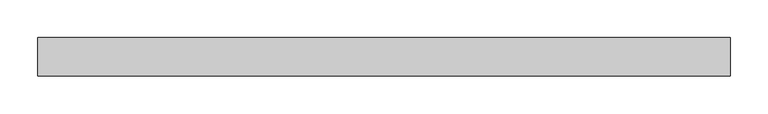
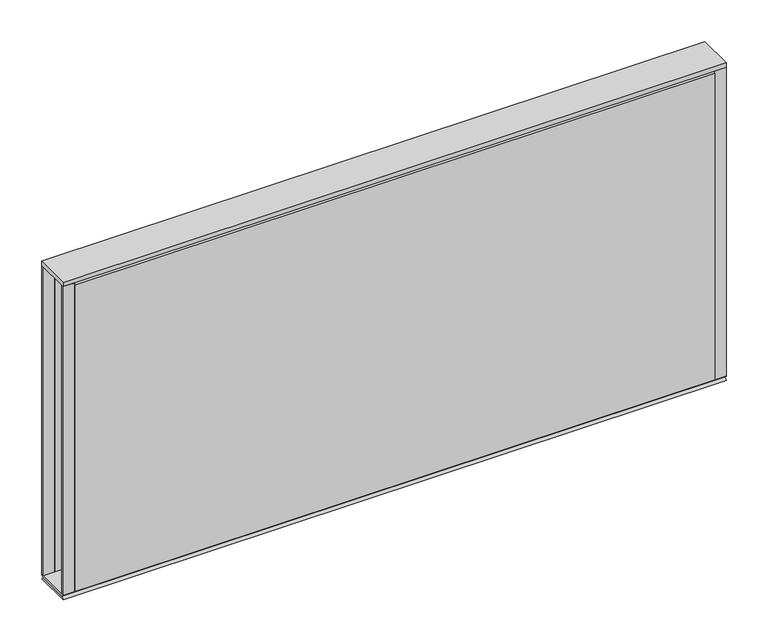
"""IFC4 building model written with IfcOpenShell, lengths in millimetres: furniture geometry, Steelcase - Kick Solutions - Panel - Stacker - Tackable Acoustical : 18H x 36W."""

from ifc_helpers import new_model, si_unit, frame, origin, place, context, project, spatial, polyline, outline, extrude, source, transform, mapped, element, save


def furniture_2aa7dff5(model_context):
    return source(origin(), model_context, "Body", "SweptSolid", [
        extrude(outline(polyline([(-50.7995075, 1073.2669139), (-0.000494, 1073.2669139), (-3.1752531, 1070.0921549), (-47.6247484, 1070.0921549), (-50.7995075, 1073.2669139)])), frame((0.0, 0.0, 0.0), z_axis=(1.0, 0.0, 0.0), x_axis=(0.0, 1.0, 0.0)), (0.0, 0.0, 1.0), 914.4),
        extrude(outline(polyline([(0.0, 1073.2669139), (-3.1750015, 1073.2669139), (-3.1750015, 1524.1169018), (0.0, 1521.0357466), (0.0, 1073.2669139)])), frame((15.8749996, 0.0, 0.0), z_axis=(1.0, 0.0, 0.0), x_axis=(0.0, 1.0, 0.0)), (0.0, 0.0, 1.0), 882.6500008),
        extrude(outline(polyline([(-50.8000015, 1073.2669139), (-50.8000015, 1521.0357466), (-47.625, 1524.1169018), (-47.625, 1073.2669139), (-50.8000015, 1073.2669139)])), frame((15.8749996, 0.0, 0.0), z_axis=(1.0, 0.0, 0.0), x_axis=(0.0, 1.0, 0.0)), (0.0, 0.0, 1.0), 882.6500008),
        extrude(outline(polyline([(914.4, -3.1750015), (898.5250004, -3.1750015), (898.5250004, 0.0), (914.4, 0.0), (914.4, -3.1750015)])), frame((0.0, 0.0, 1073.2669139), z_axis=(0.0, 0.0, 1.0), x_axis=(1.0, 0.0, 0.0)), (0.0, 0.0, 1.0), 450.8499879),
        extrude(outline(polyline([(15.8749996, -50.8000015), (0.0, -50.8000015), (0.0, -47.625), (15.8749996, -47.625), (15.8749996, -50.8000015)])), frame((0.0, 0.0, 1073.2669139), z_axis=(0.0, 0.0, 1.0), x_axis=(1.0, 0.0, 0.0)), (0.0, 0.0, 1.0), 450.8499879),
        extrude(outline(polyline([(914.4, 0.0), (914.4, -50.8000015), (0.0, -50.8000015), (0.0, 0.0), (914.4, 0.0)])), frame((0.0, 0.0, 1524.1169018), z_axis=(0.0, 0.0, 1.0), x_axis=(1.0, 0.0, 0.0)), (0.0, 0.0, 1.0), 6.35),
        extrude(outline(polyline([(15.8749996, -3.1750015), (0.0, -3.1750015), (0.0, 0.0), (15.8749996, 0.0), (15.8749996, -3.1750015)])), frame((0.0, 0.0, 1073.2669139), z_axis=(0.0, 0.0, 1.0), x_axis=(1.0, 0.0, 0.0)), (0.0, 0.0, 1.0), 450.8499879),
        extrude(outline(polyline([(914.4, -50.8000015), (898.5250004, -50.8000015), (898.5250004, -47.625), (914.4, -47.625), (914.4, -50.8000015)])), frame((0.0, 0.0, 1073.2669139), z_axis=(0.0, 0.0, 1.0), x_axis=(1.0, 0.0, 0.0)), (0.0, 0.0, 1.0), 450.8499879),
        extrude(outline(polyline([(-50.8000015, 1066.9169018), (-47.6247484, 1070.0921549), (-3.1752531, 1070.0921549), (0.0, 1066.9169018), (-50.8000015, 1066.9169018)])), frame((0.0, 0.0, 0.0), z_axis=(1.0, 0.0, 0.0), x_axis=(0.0, 1.0, 0.0)), (0.0, 0.0, 1.0), 914.4),
    ])


if __name__ == "__main__":
    model = new_model("IFC4")
    model_context = context("Model", 3, world=origin())
    ifc_project = project(units=[si_unit("LENGTHUNIT", "METRE", prefix="MILLI")], contexts=[model_context])
    site = spatial("IfcSite", under=ifc_project)
    building = spatial("IfcBuilding", under=site)
    placement = place(None, origin())
    furniture_shape = furniture_2aa7dff5(model_context)
    element("IfcFurniture", 1, ObjectType="Steelcase - Kick Solutions - Panel - Stacker - Tackable Acoustical : 18H x 36W", at=placement, inside=building, context=model_context, shape_type="MappedRepresentation", body=[
        mapped(furniture_shape, transform((0.0, 0.0, 0.0), x_axis=(1.0, 0.0, 0.0), y_axis=(0.0, 1.0, 0.0), z_axis=(0.0, 0.0, 1.0))),
    ])
    save(model, "model.ifc")
